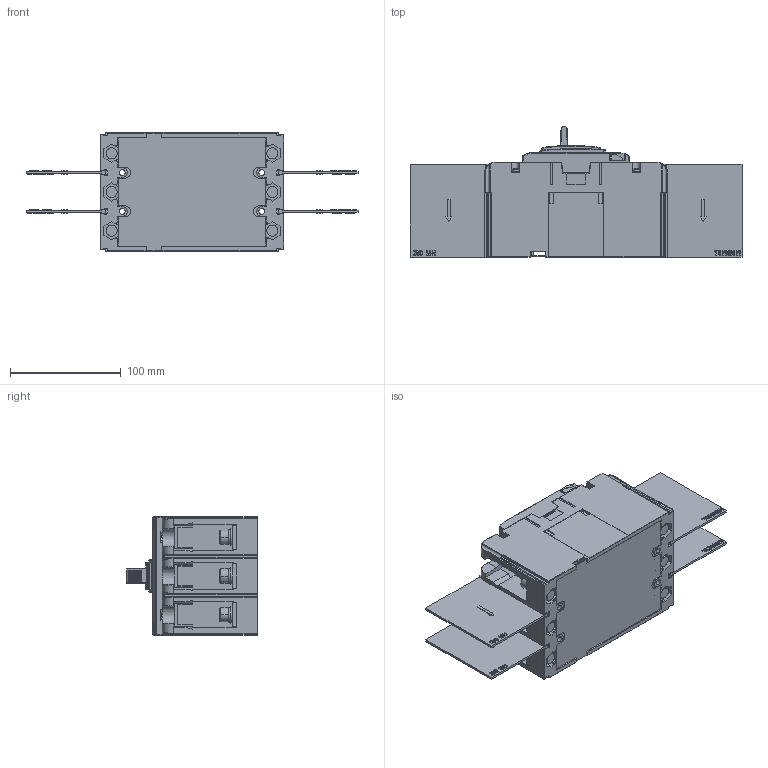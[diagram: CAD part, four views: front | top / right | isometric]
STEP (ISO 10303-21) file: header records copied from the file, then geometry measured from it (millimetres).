
FILE_DESCRIPTION((''),'2;1');
FILE_NAME('2TZD_256_6065_1_SW0001','2023-12-14T15:16:26',('zhenghaojing'),(''),'CREO PARAMETRIC BY PTC INC, 2020354','CREO PARAMETRIC BY PTC INC, 2020354','');
FILE_SCHEMA(('CONFIG_CONTROL_DESIGN'));
Products named in the file (1): 2TZD_256_6065_1_SW0001
Bounding box: 300 x 118.23 x 107 mm (x, y, z)
Volume: 619678.5 mm3; surface area: 368335.4 mm2
Topology: 2 solids, 2 shells, 6797 faces, 18647 edges, 11902 vertices
Faces by surface type: plane 4704, cylinder 1495, sphere 216, torus 173, bspline 117, cone 92
Entity records: 219470 total; most frequent: CARTESIAN_POINT 45385, ORIENTED_EDGE 37270, DIRECTION 35023, EDGE_CURVE 18635, VECTOR 14351, LINE 14351, VERTEX_POINT 11902, AXIS2_PLACEMENT_3D 10336
